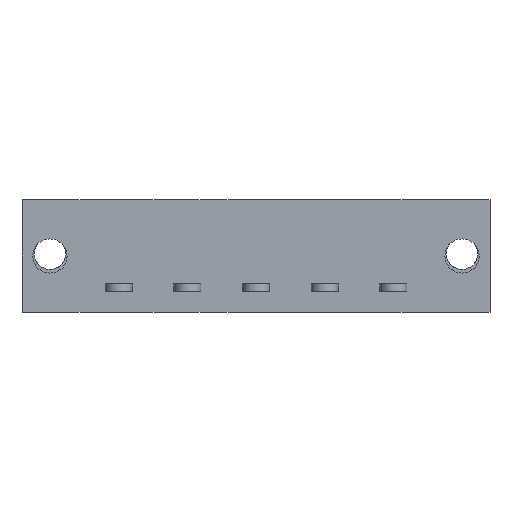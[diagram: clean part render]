
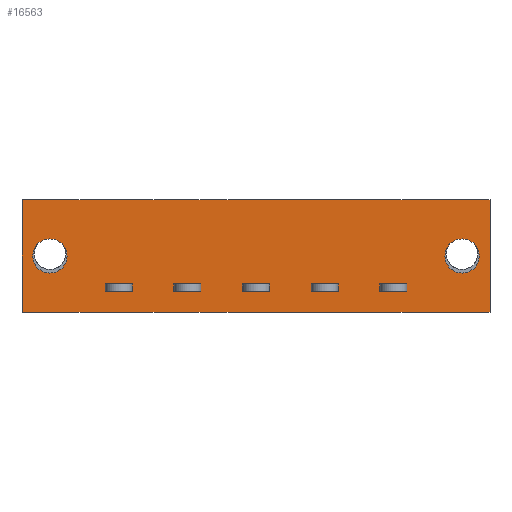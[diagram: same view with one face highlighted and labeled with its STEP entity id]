
A CAD part, front view. The second image highlights one B-rep face of the part: STEP entity #16563.
In plain terms, the highlighted planar face has unit normal (0, -1, 0).
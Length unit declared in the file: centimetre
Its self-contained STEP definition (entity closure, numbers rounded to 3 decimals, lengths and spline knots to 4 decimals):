
#795=PLANE('',#27259);
#1637=VECTOR('',#17876,1.);
#1834=VECTOR('',#18307,1.);
#1838=VECTOR('',#18312,1.);
#1841=VECTOR('',#18335,1.);
#1844=VECTOR('',#18339,1.);
#1855=VECTOR('',#18360,1.);
#1879=VECTOR('',#18387,1.);
#1880=VECTOR('',#18388,1.);
#1881=VECTOR('',#18389,1.);
#1882=VECTOR('',#18390,1.);
#1883=VECTOR('',#18391,1.);
#1884=VECTOR('',#18392,1.);
#1885=VECTOR('',#18393,1.);
#1886=VECTOR('',#18394,1.);
#1887=VECTOR('',#18395,1.);
#1888=VECTOR('',#18396,1.);
#1889=VECTOR('',#18397,1.);
#1890=VECTOR('',#18398,1.);
#1891=VECTOR('',#18399,1.);
#1892=VECTOR('',#18400,1.);
#1893=VECTOR('',#18401,1.);
#1894=VECTOR('',#18402,1.);
#1895=VECTOR('',#18403,1.);
#1896=VECTOR('',#18404,1.);
#3433=LINE('',#22169,#1637);
#3630=LINE('',#22823,#1834);
#3634=LINE('',#22832,#1838);
#3637=LINE('',#22853,#1841);
#3640=LINE('',#22858,#1844);
#3651=LINE('',#22887,#1855);
#3675=LINE('',#22936,#1879);
#3676=LINE('',#22939,#1880);
#3677=LINE('',#22941,#1881);
#3678=LINE('',#22943,#1882);
#3679=LINE('',#22944,#1883);
#3680=LINE('',#22947,#1884);
#3681=LINE('',#22949,#1885);
#3682=LINE('',#22951,#1886);
#3683=LINE('',#22952,#1887);
#3684=LINE('',#22955,#1888);
#3685=LINE('',#22957,#1889);
#3686=LINE('',#22959,#1890);
#3687=LINE('',#22960,#1891);
#3688=LINE('',#22963,#1892);
#3689=LINE('',#22965,#1893);
#3690=LINE('',#22967,#1894);
#3691=LINE('',#22968,#1895);
#3692=LINE('',#22970,#1896);
#5162=VERTEX_POINT('',#22168);
#5163=VERTEX_POINT('',#22170);
#5166=VERTEX_POINT('',#22178);
#5353=VERTEX_POINT('',#22824);
#5354=VERTEX_POINT('',#22825);
#5357=VERTEX_POINT('',#22833);
#5364=VERTEX_POINT('',#22854);
#5377=VERTEX_POINT('',#22888);
#5399=VERTEX_POINT('',#22935);
#5400=VERTEX_POINT('',#22937);
#5401=VERTEX_POINT('',#22938);
#5402=VERTEX_POINT('',#22940);
#5403=VERTEX_POINT('',#22942);
#5404=VERTEX_POINT('',#22945);
#5405=VERTEX_POINT('',#22946);
#5406=VERTEX_POINT('',#22948);
#5407=VERTEX_POINT('',#22950);
#5408=VERTEX_POINT('',#22953);
#5409=VERTEX_POINT('',#22954);
#5410=VERTEX_POINT('',#22956);
#5411=VERTEX_POINT('',#22958);
#5412=VERTEX_POINT('',#22961);
#5413=VERTEX_POINT('',#22962);
#5414=VERTEX_POINT('',#22964);
#5415=VERTEX_POINT('',#22966);
#5416=VERTEX_POINT('',#22969);
#6454=CIRCLE('',#27086,0.19);
#6516=CIRCLE('',#27260,0.19);
#7280=EDGE_CURVE('',#5163,#5162,#3433,.T.);
#7284=EDGE_CURVE('',#5166,#5166,#6454,.T.);
#7566=EDGE_CURVE('',#5353,#5354,#3630,.T.);
#7570=EDGE_CURVE('',#5357,#5353,#3634,.T.);
#7579=EDGE_CURVE('',#5364,#5357,#3637,.T.);
#7582=EDGE_CURVE('',#5354,#5364,#3640,.T.);
#7596=EDGE_CURVE('',#5377,#5162,#3651,.T.);
#7620=EDGE_CURVE('',#5399,#5399,#6516,.T.);
#7621=EDGE_CURVE('',#5400,#5401,#3675,.T.);
#7622=EDGE_CURVE('',#5401,#5402,#3676,.T.);
#7623=EDGE_CURVE('',#5402,#5403,#3677,.T.);
#7624=EDGE_CURVE('',#5403,#5400,#3678,.T.);
#7625=EDGE_CURVE('',#5404,#5405,#3679,.T.);
#7626=EDGE_CURVE('',#5405,#5406,#3680,.T.);
#7627=EDGE_CURVE('',#5406,#5407,#3681,.T.);
#7628=EDGE_CURVE('',#5407,#5404,#3682,.T.);
#7629=EDGE_CURVE('',#5408,#5409,#3683,.T.);
#7630=EDGE_CURVE('',#5409,#5410,#3684,.T.);
#7631=EDGE_CURVE('',#5410,#5411,#3685,.T.);
#7632=EDGE_CURVE('',#5411,#5408,#3686,.T.);
#7633=EDGE_CURVE('',#5412,#5413,#3687,.T.);
#7634=EDGE_CURVE('',#5413,#5414,#3688,.T.);
#7635=EDGE_CURVE('',#5414,#5415,#3689,.T.);
#7636=EDGE_CURVE('',#5415,#5412,#3690,.T.);
#7637=EDGE_CURVE('',#5416,#5163,#3691,.T.);
#7638=EDGE_CURVE('',#5377,#5416,#3692,.T.);
#10908=ORIENTED_EDGE('',*,*,#7284,.T.);
#10909=ORIENTED_EDGE('',*,*,#7620,.T.);
#10910=ORIENTED_EDGE('',*,*,#7570,.F.);
#10911=ORIENTED_EDGE('',*,*,#7579,.F.);
#10912=ORIENTED_EDGE('',*,*,#7582,.F.);
#10913=ORIENTED_EDGE('',*,*,#7566,.F.);
#10914=ORIENTED_EDGE('',*,*,#7621,.T.);
#10915=ORIENTED_EDGE('',*,*,#7622,.T.);
#10916=ORIENTED_EDGE('',*,*,#7623,.T.);
#10917=ORIENTED_EDGE('',*,*,#7624,.T.);
#10918=ORIENTED_EDGE('',*,*,#7625,.T.);
#10919=ORIENTED_EDGE('',*,*,#7626,.T.);
#10920=ORIENTED_EDGE('',*,*,#7627,.T.);
#10921=ORIENTED_EDGE('',*,*,#7628,.T.);
#10922=ORIENTED_EDGE('',*,*,#7629,.T.);
#10923=ORIENTED_EDGE('',*,*,#7630,.T.);
#10924=ORIENTED_EDGE('',*,*,#7631,.T.);
#10925=ORIENTED_EDGE('',*,*,#7632,.T.);
#10926=ORIENTED_EDGE('',*,*,#7633,.T.);
#10927=ORIENTED_EDGE('',*,*,#7634,.T.);
#10928=ORIENTED_EDGE('',*,*,#7635,.T.);
#10929=ORIENTED_EDGE('',*,*,#7636,.T.);
#10930=ORIENTED_EDGE('',*,*,#7637,.T.);
#10931=ORIENTED_EDGE('',*,*,#7280,.T.);
#10932=ORIENTED_EDGE('',*,*,#7596,.F.);
#10933=ORIENTED_EDGE('',*,*,#7638,.T.);
#14514=EDGE_LOOP('',(#10908));
#14515=EDGE_LOOP('',(#10909));
#14516=EDGE_LOOP('',(#10910,#10911,#10912,#10913));
#14517=EDGE_LOOP('',(#10914,#10915,#10916,#10917));
#14518=EDGE_LOOP('',(#10918,#10919,#10920,#10921));
#14519=EDGE_LOOP('',(#10922,#10923,#10924,#10925));
#14520=EDGE_LOOP('',(#10926,#10927,#10928,#10929));
#14521=EDGE_LOOP('',(#10930,#10931,#10932,#10933));
#15558=FACE_BOUND('',#14514,.T.);
#15559=FACE_BOUND('',#14515,.T.);
#15560=FACE_BOUND('',#14516,.T.);
#15561=FACE_BOUND('',#14517,.T.);
#15562=FACE_BOUND('',#14518,.T.);
#15563=FACE_BOUND('',#14519,.T.);
#15564=FACE_BOUND('',#14520,.T.);
#15565=FACE_BOUND('',#14521,.T.);
#16563=ADVANCED_FACE('',(#15558,#15559,#15560,#15561,#15562,#15563,#15564,
#15565),#795,.T.);
#17876=DIRECTION('',(0.,0.,1.));
#17882=DIRECTION('',(0.,1.,0.));
#17883=DIRECTION('',(0.19,0.,0.));
#18307=DIRECTION('',(0.,0.,-1.));
#18312=DIRECTION('',(-1.,0.,0.));
#18335=DIRECTION('',(0.,0.,1.));
#18339=DIRECTION('',(1.,0.,0.));
#18360=DIRECTION('',(1.,0.,0.));
#18384=DIRECTION('',(0.,-1.,0.));
#18385=DIRECTION('',(0.,1.,0.));
#18386=DIRECTION('',(0.19,0.,0.));
#18387=DIRECTION('',(1.,0.,0.));
#18388=DIRECTION('',(0.,0.,-1.));
#18389=DIRECTION('',(-1.,0.,0.));
#18390=DIRECTION('',(0.,0.,1.));
#18391=DIRECTION('',(1.,0.,0.));
#18392=DIRECTION('',(0.,0.,-1.));
#18393=DIRECTION('',(-1.,0.,0.));
#18394=DIRECTION('',(0.,0.,1.));
#18395=DIRECTION('',(1.,0.,0.));
#18396=DIRECTION('',(0.,0.,-1.));
#18397=DIRECTION('',(-1.,0.,0.));
#18398=DIRECTION('',(0.,0.,1.));
#18399=DIRECTION('',(1.,0.,0.));
#18400=DIRECTION('',(0.,0.,-1.));
#18401=DIRECTION('',(-1.,0.,0.));
#18402=DIRECTION('',(0.,0.,1.));
#18403=DIRECTION('',(1.,0.,0.));
#18404=DIRECTION('',(0.,0.,-1.));
#22168=CARTESIAN_POINT('',(3.81,0.,0.625));
#22169=CARTESIAN_POINT('',(3.81,0.,0.625));
#22170=CARTESIAN_POINT('',(3.81,0.,-0.625));
#22177=CARTESIAN_POINT('',(3.5,0.,0.));
#22178=CARTESIAN_POINT('',(3.31,0.,0.));
#22823=CARTESIAN_POINT('',(-0.46,0.,-0.175));
#22824=CARTESIAN_POINT('',(-0.46,0.,-0.31));
#22825=CARTESIAN_POINT('',(-0.46,0.,-0.39));
#22832=CARTESIAN_POINT('',(-0.465,0.,-0.31));
#22833=CARTESIAN_POINT('',(-0.16,0.,-0.31));
#22853=CARTESIAN_POINT('',(-0.16,0.,-0.175));
#22854=CARTESIAN_POINT('',(-0.16,0.,-0.39));
#22858=CARTESIAN_POINT('',(-0.465,0.,-0.39));
#22887=CARTESIAN_POINT('',(-1.382,0.,0.625));
#22888=CARTESIAN_POINT('',(-1.382,0.,0.625));
#22933=CARTESIAN_POINT('',(0.,0.,0.));
#22934=CARTESIAN_POINT('',(-1.072,0.,0.));
#22935=CARTESIAN_POINT('',(-1.262,0.,0.));
#22936=CARTESIAN_POINT('',(1.369,0.,-0.31));
#22937=CARTESIAN_POINT('',(2.588,0.,-0.31));
#22938=CARTESIAN_POINT('',(2.888,0.,-0.31));
#22939=CARTESIAN_POINT('',(2.888,0.,-0.175));
#22940=CARTESIAN_POINT('',(2.888,0.,-0.39));
#22941=CARTESIAN_POINT('',(1.369,0.,-0.39));
#22942=CARTESIAN_POINT('',(2.588,0.,-0.39));
#22943=CARTESIAN_POINT('',(2.588,0.,-0.175));
#22944=CARTESIAN_POINT('',(0.988,0.,-0.31));
#22945=CARTESIAN_POINT('',(1.826,0.,-0.31));
#22946=CARTESIAN_POINT('',(2.126,0.,-0.31));
#22947=CARTESIAN_POINT('',(2.126,0.,-0.175));
#22948=CARTESIAN_POINT('',(2.126,0.,-0.39));
#22949=CARTESIAN_POINT('',(0.988,0.,-0.39));
#22950=CARTESIAN_POINT('',(1.826,0.,-0.39));
#22951=CARTESIAN_POINT('',(1.826,0.,-0.175));
#22952=CARTESIAN_POINT('',(0.607,0.,-0.31));
#22953=CARTESIAN_POINT('',(1.064,0.,-0.31));
#22954=CARTESIAN_POINT('',(1.364,0.,-0.31));
#22955=CARTESIAN_POINT('',(1.364,0.,-0.175));
#22956=CARTESIAN_POINT('',(1.364,0.,-0.39));
#22957=CARTESIAN_POINT('',(0.607,0.,-0.39));
#22958=CARTESIAN_POINT('',(1.064,0.,-0.39));
#22959=CARTESIAN_POINT('',(1.064,0.,-0.175));
#22960=CARTESIAN_POINT('',(0.226,0.,-0.31));
#22961=CARTESIAN_POINT('',(0.302,0.,-0.31));
#22962=CARTESIAN_POINT('',(0.602,0.,-0.31));
#22963=CARTESIAN_POINT('',(0.602,0.,-0.175));
#22964=CARTESIAN_POINT('',(0.602,0.,-0.39));
#22965=CARTESIAN_POINT('',(0.226,0.,-0.39));
#22966=CARTESIAN_POINT('',(0.302,0.,-0.39));
#22967=CARTESIAN_POINT('',(0.302,0.,-0.175));
#22968=CARTESIAN_POINT('',(-1.382,0.,-0.625));
#22969=CARTESIAN_POINT('',(-1.382,0.,-0.625));
#22970=CARTESIAN_POINT('',(-1.382,0.,0.625));
#27086=AXIS2_PLACEMENT_3D('',#22177,#17882,#17883);
#27259=AXIS2_PLACEMENT_3D('',#22933,#18384,$);
#27260=AXIS2_PLACEMENT_3D('',#22934,#18385,#18386);
